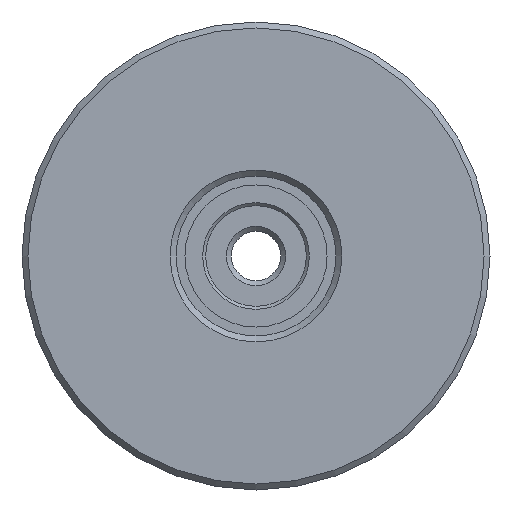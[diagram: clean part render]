
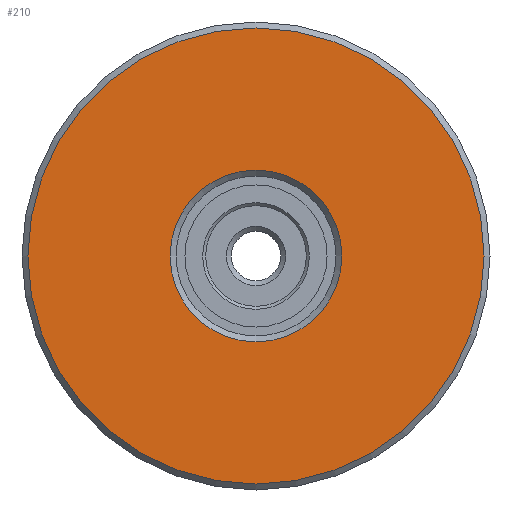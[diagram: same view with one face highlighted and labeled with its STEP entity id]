
A CAD part, left-side view. The second image highlights one B-rep face of the part: STEP entity #210.
In plain terms, the highlighted planar face has unit normal (-1, 0, 0) as drawn and (0, -1, 0) by its records, which use the part's own axes.
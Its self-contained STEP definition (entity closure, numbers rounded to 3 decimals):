
#210 = ADVANCED_FACE( '', ( #293, #294 ), #295, .T. );
#293 = FACE_OUTER_BOUND( '', #481, .T. );
#294 = FACE_BOUND( '', #482, .T. );
#295 = PLANE( '', #483 );
#481 = EDGE_LOOP( '', ( #676 ) );
#482 = EDGE_LOOP( '', ( #677 ) );
#483 = AXIS2_PLACEMENT_3D( '', #678, #679, #680 );
#676 = ORIENTED_EDGE( '', *, *, #1150, .T. );
#677 = ORIENTED_EDGE( '', *, *, #1149, .F. );
#678 = CARTESIAN_POINT( '', ( 14.5, 0., 0. ) );
#679 = DIRECTION( '', ( 0., -1., 0. ) );
#680 = DIRECTION( '', ( 0., 0., -1. ) );
#1149 = EDGE_CURVE( '', #1288, #1288, #1289, .T. );
#1150 = EDGE_CURVE( '', #1290, #1290, #1291, .T. );
#1288 = VERTEX_POINT( '', #1526 );
#1289 = CIRCLE( '', #1527, 14.5 );
#1290 = VERTEX_POINT( '', #1528 );
#1291 = CIRCLE( '', #1529, 38.5 );
#1526 = CARTESIAN_POINT( '', ( 0., 0., -14.5 ) );
#1527 = AXIS2_PLACEMENT_3D( '', #1980, #1981, #1982 );
#1528 = CARTESIAN_POINT( '', ( 0., 0., -38.5 ) );
#1529 = AXIS2_PLACEMENT_3D( '', #1983, #1984, #1985 );
#1980 = CARTESIAN_POINT( '', ( 0., 0., 0. ) );
#1981 = DIRECTION( '', ( 0., -1., 0. ) );
#1982 = DIRECTION( '', ( 0., 0., -1. ) );
#1983 = CARTESIAN_POINT( '', ( 0., 0., 0. ) );
#1984 = DIRECTION( '', ( 0., -1., 0. ) );
#1985 = DIRECTION( '', ( 0., 0., -1. ) );
